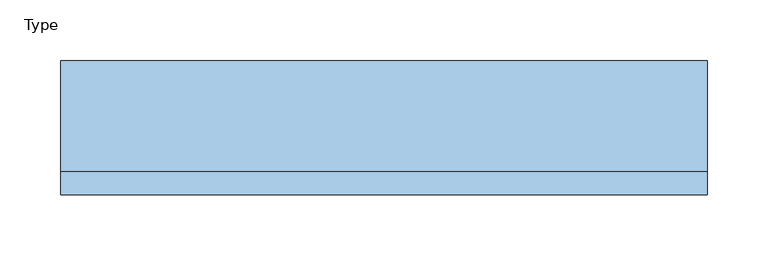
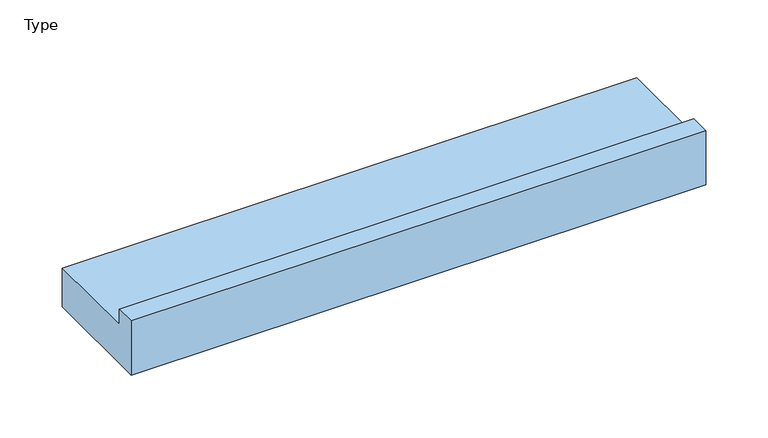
"""IFC4 building model written with IfcOpenShell, lengths in millimetres: window geometry, NLRS_30_MC_spouwlat_onderdorpel_bis_53x110 : Type."""

from ifc_helpers import new_model, si_unit, frame, origin, place, context, project, spatial, polyline, outline, extrude, source, transform, mapped, element, save


def type_877268f2(model_context):
    return source(origin(), model_context, "Body", "SweptSolid", [
        extrude(outline(polyline([(19.0, 0.0), (110.0, 0.0), (110.0, -38.0), (0.0, -38.0), (0.0, 15.0), (19.0, 15.0), (19.0, 0.0)])), frame((-265.5, 0.0, 0.0), z_axis=(1.0, 0.0, 0.0), x_axis=(0.0, 1.0, 0.0)), (0.0, 0.0, 1.0), 531.0),
    ])


if __name__ == "__main__":
    model = new_model("IFC4")
    model_context = context("Model", 3, world=origin())
    ifc_project = project(units=[si_unit("LENGTHUNIT", "METRE", prefix="MILLI")], contexts=[model_context])
    site = spatial("IfcSite", under=ifc_project)
    building = spatial("IfcBuilding", under=site)
    placement = place(None, origin())
    ifc_type_shape = type_877268f2(model_context)
    element("IfcWindow", 1, ObjectType="NLRS_30_MC_spouwlat_onderdorpel_bis_53x110 : Type", at=placement, inside=building, context=model_context, shape_type="MappedRepresentation", body=[
        mapped(ifc_type_shape, transform((0.0, 0.0, 0.0), x_axis=(1.0, 0.0, 0.0), y_axis=(0.0, 1.0, 0.0), z_axis=(0.0, 0.0, 1.0))),
    ])
    save(model, "model.ifc")
